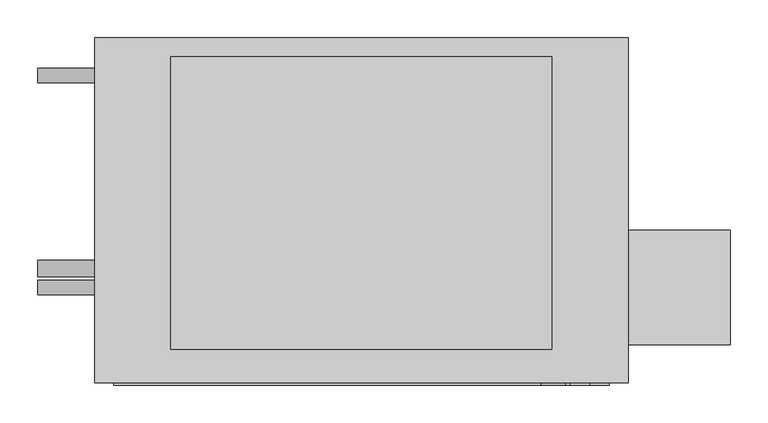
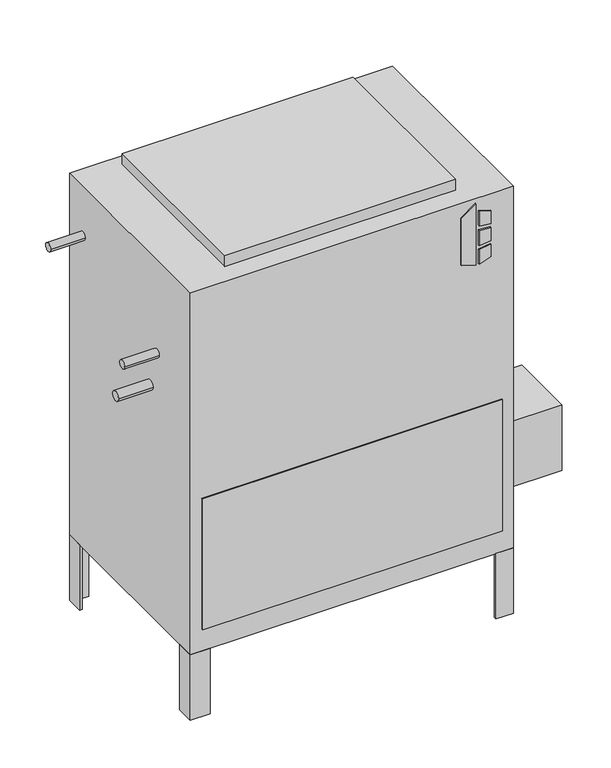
"""IFC4 building model written with IfcOpenShell, lengths in millimetres: proxy geometry, Concealed_High_Capacity_Vertical_Fan_Coil_Unit_-_VEY_-_IEC_-_2-Pipe_Cool-EHeat_LH_2022 : Size 08 - 277v/60Hz/1Ph - 6 Row 6.0kW."""

import ifcopenshell
import ifcopenshell.guid

model = None  # the IFC model being written
_history = None  # IfcOwnerHistory: only IFC2X3 demands one
_inside = {}  # id of a spatial element -> (the spatial element, [elements in it])
_under = {}  # id of a project, library or spatial element -> (it, [spatial elements below it])
_declared = {}  # id of a project -> (the project, [libraries it declares])
_typed = {}  # id of a type object -> (the type object, [elements of that type])
_made_of = {}  # id of a material, layer set ... -> (it, [elements and type objects made of it])


def new_model(schema):
    """Start an empty IFC model of exactly this schema.

    Asked for "IFC4X3", IfcOpenShell would pick the latest addendum, in which some entities
    have other attributes; the version numbers below select the first issue.
    IFC2X3 requires an IfcOwnerHistory on every rooted entity: one is made here for all.
    """
    global model, _history
    if schema == "IFC4X3":
        model = ifcopenshell.file(schema_version=(4, 3, 0, 0))
    else:
        model = ifcopenshell.file(schema=schema)
    _inside.clear()
    _under.clear()
    _declared.clear()
    _typed.clear()
    _made_of.clear()
    _history = None
    if model.schema == "IFC2X3":
        org = make("IfcOrganization", Name="unknown")
        user = make(
            "IfcPersonAndOrganization",
            ThePerson=make("IfcPerson", FamilyName="unknown"),
            TheOrganization=org,
        )
        app = make(
            "IfcApplication",
            ApplicationDeveloper=org,
            Version="unknown",
            ApplicationFullName="unknown",
            ApplicationIdentifier="unknown",
        )
        _history = make(
            "IfcOwnerHistory",
            OwningUser=user,
            OwningApplication=app,
            ChangeAction="ADDED",
            CreationDate=0,
        )
    return model


def make(cls, **values):
    """One entity of the class cls with the attributes given. An attribute that is None is left unset."""
    return model.create_entity(
        cls, **{name: value for name, value in values.items() if value is not None}
    )


def rooted(cls, **values):
    """An entity with a GlobalId (a new one), such as an element, a storey or a relation."""
    return make(cls, GlobalId=ifcopenshell.guid.new(), OwnerHistory=_history, **values)


def si_unit(unit_type, name, prefix=None):
    """IfcSIUnit, for example si_unit("LENGTHUNIT", "METRE", prefix="MILLI")."""
    return make("IfcSIUnit", UnitType=unit_type, Prefix=prefix, Name=name)


def assignment(units):
    """IfcUnitAssignment: the units of a project."""
    return None if units is None else make("IfcUnitAssignment", Units=units)


def point(xyz):
    """IfcCartesianPoint."""
    return None if xyz is None else make("IfcCartesianPoint", Coordinates=xyz)


def direction(xyz):
    """IfcDirection."""
    return None if xyz is None else make("IfcDirection", DirectionRatios=xyz)


def frame(location, z_axis=None, x_axis=None):
    """IfcAxis2Placement3D, a coordinate frame: its origin and axes. An axis left out is left unset."""
    return make(
        "IfcAxis2Placement3D",
        Location=point(location),
        Axis=direction(z_axis),
        RefDirection=direction(x_axis),
    )


def frame_2d(location, x_axis=None):
    """IfcAxis2Placement2D, a coordinate frame in the plane: its origin and x axis."""
    return make(
        "IfcAxis2Placement2D", Location=point(location), RefDirection=direction(x_axis)
    )


def origin():
    """The frame at (0, 0, 0) with its axes left unset."""
    return frame((0.0, 0.0, 0.0))


def origin_with_axes():
    """The frame at (0, 0, 0) with the z axis (0, 0, 1) and the x axis (1, 0, 0) written out."""
    return frame((0.0, 0.0, 0.0), z_axis=(0.0, 0.0, 1.0), x_axis=(1.0, 0.0, 0.0))


def place(relative_to, where):
    """IfcLocalPlacement: puts the frame where relative to a parent placement (None: the world)."""
    return make(
        "IfcLocalPlacement", PlacementRelTo=relative_to, RelativePlacement=where
    )


def context(
    kind, dimensions, precision=None, world=None, true_north=None, identifier=None
):
    """IfcGeometricRepresentationContext, for example the 3D "Model" context."""
    return make(
        "IfcGeometricRepresentationContext",
        ContextIdentifier=identifier,
        ContextType=kind,
        CoordinateSpaceDimension=dimensions,
        Precision=precision,
        WorldCoordinateSystem=world,
        TrueNorth=true_north,
    )


def project(units=None, contexts=None):
    """IfcProject with its units and contexts."""
    return rooted(
        "IfcProject",
        Name="project",
        RepresentationContexts=contexts,
        UnitsInContext=assignment(units),
    )


def spatial(cls, under=None, at=None, **own):
    """A site, building, storey or space (cls), placed at a placement, below another one or the project."""
    s = rooted(cls, ObjectPlacement=at, **own)
    if under is not None:
        _under.setdefault(under.id(), (under, []))[1].append(s)
    return s


def polyline(points):
    """IfcPolyline through the points."""
    return make("IfcPolyline", Points=[point(p) for p in points])


def circle_curve(where, radius):
    """IfcCircle in the frame where."""
    return make("IfcCircle", Position=where, Radius=radius)


def trimmed(basis, trim1, trim2, sense, master):
    """IfcTrimmedCurve: the piece of a basis curve between two trims."""
    return make(
        "IfcTrimmedCurve",
        BasisCurve=basis,
        Trim1=trim1,
        Trim2=trim2,
        SenseAgreement=sense,
        MasterRepresentation=master,
    )


def segment(curve, same_sense, transition):
    """IfcCompositeCurveSegment."""
    return make(
        "IfcCompositeCurveSegment",
        Transition=transition,
        SameSense=same_sense,
        ParentCurve=curve,
    )


def composite_curve(segments, self_intersect=None):
    """IfcCompositeCurve: segments joined end to end."""
    return make("IfcCompositeCurve", Segments=segments, SelfIntersect=self_intersect)


def outline(outer, holes=None, kind="AREA"):
    """IfcArbitraryClosedProfileDef: a profile drawn as a closed curve; with holes, ...WithVoids."""
    if holes is None:
        return make("IfcArbitraryClosedProfileDef", ProfileType=kind, OuterCurve=outer)
    return make(
        "IfcArbitraryProfileDefWithVoids",
        ProfileType=kind,
        OuterCurve=outer,
        InnerCurves=holes,
    )


def extrude(swept, where, along, depth):
    """IfcExtrudedAreaSolid: the profile swept, set in the frame where, extruded along a direction by depth."""
    return make(
        "IfcExtrudedAreaSolid",
        SweptArea=swept,
        Position=where,
        ExtrudedDirection=direction(along),
        Depth=depth,
    )


def shape(context_of_items, identifier, shape_type, items):
    """IfcShapeRepresentation: the items that make up one representation, for example the "Body"."""
    return make(
        "IfcShapeRepresentation",
        ContextOfItems=context_of_items,
        RepresentationIdentifier=identifier,
        RepresentationType=shape_type,
        Items=items,
    )


def source(mapping_origin, context_of_items, identifier, shape_type, items):
    """IfcRepresentationMap: a shape defined once, which mapped items show again and again."""
    return make(
        "IfcRepresentationMap",
        MappingOrigin=mapping_origin,
        MappedRepresentation=shape(context_of_items, identifier, shape_type, items),
    )


def transform(
    local_origin,
    x_axis=None,
    y_axis=None,
    z_axis=None,
    scale=None,
    scale2=None,
    scale3=None,
    uniform=True,
):
    """IfcCartesianTransformationOperator3D, or its non-uniform kind. x_axis, y_axis, z_axis: its Axis1, 2, 3."""
    if uniform:
        return make(
            "IfcCartesianTransformationOperator3D",
            Axis1=direction(x_axis),
            Axis2=direction(y_axis),
            LocalOrigin=point(local_origin),
            Scale=scale,
            Axis3=direction(z_axis),
        )
    return make(
        "IfcCartesianTransformationOperator3DnonUniform",
        Axis1=direction(x_axis),
        Axis2=direction(y_axis),
        LocalOrigin=point(local_origin),
        Scale=scale,
        Axis3=direction(z_axis),
        Scale2=scale2,
        Scale3=scale3,
    )


def mapped(mapping_source, mapping_target):
    """IfcMappedItem: shows the shape of a source again, moved by a transform."""
    return make(
        "IfcMappedItem", MappingSource=mapping_source, MappingTarget=mapping_target
    )


def made_of(thing, what):
    """Note that an element or type object is made of a material, layer set ...; save() writes the relation."""
    if what is not None:
        _made_of.setdefault(what.id(), (what, []))[1].append(thing)
    return thing


def element(
    cls,
    number,
    at=None,
    inside=None,
    cuts=None,
    type_object=None,
    material=None,
    context=None,
    identifier="Body",
    shape_type=None,
    held_by="IfcProductDefinitionShape",
    body=None,
    shapes=None,
    **own,
):
    """One element of the class cls, such as IfcWall. Its Tag is "e" and its number.

    at: its placement. inside: the storey or other place that contains it. cuts: it is an
    opening in that element (IfcRelVoidsElement). A single representation is given by context,
    identifier, shape_type and body (its items); several are given by shapes. held_by: the class
    of the entity that holds the representations. save() writes the other relations.
    """
    e = rooted(cls, Tag="e%d" % number, ObjectPlacement=at, **own)
    if body is not None:
        shapes = [shape(context, identifier, shape_type, body)]
    if shapes is not None:
        e.Representation = make(held_by, Representations=shapes)
    if inside is not None:
        _inside.setdefault(inside.id(), (inside, []))[1].append(e)
    if cuts is not None:
        rooted(
            "IfcRelVoidsElement", RelatingBuildingElement=cuts, RelatedOpeningElement=e
        )
    if type_object is not None:
        _typed.setdefault(type_object.id(), (type_object, []))[1].append(e)
    return made_of(e, material)


def aggregate(whole, parts):
    """IfcRelAggregates: a whole, such as a stair, and the parts it consists of."""
    return rooted("IfcRelAggregates", RelatingObject=whole, RelatedObjects=parts)


def save(model, path):
    """Write the relations noted so far, then the file.

    IfcRelAggregates (storeys below a building ...), IfcRelContainedInSpatialStructure (elements
    in a storey), IfcRelDefinesByType, IfcRelAssociatesMaterial and IfcRelDeclares: one each for
    every whole, place, type object, material and project.
    """
    for whole, parts in _under.values():
        aggregate(whole, parts)
    for where, things in _inside.values():
        rooted(
            "IfcRelContainedInSpatialStructure",
            RelatedElements=things,
            RelatingStructure=where,
        )
    for kind, things in _typed.values():
        rooted("IfcRelDefinesByType", RelatedObjects=things, RelatingType=kind)
    for what, things in _made_of.values():
        rooted("IfcRelAssociatesMaterial", RelatedObjects=things, RelatingMaterial=what)
    for by, libraries in _declared.values():
        rooted("IfcRelDeclares", RelatingContext=by, RelatedDefinitions=libraries)
    model.write(path)


def mechanical_equipment_5b6f974a(model_context):
    return source(origin(), model_context, "Body", "SweptSolid", [
        extrude(outline(polyline([(698.9230703, 392.1868862), (688.975, 424.3602728), (831.1459244, 424.3602728), (808.1239183, 392.1868862), (698.9230703, 392.1868862)])), frame((0.0, -471.4875, 0.0), z_axis=(0.0, 1.0, 0.0), x_axis=(0.0, 0.0, 1.0)), (0.0, 0.0, 1.0), 3.175),
        extrude(outline(polyline([(777.9223557, 431.1186058), (774.7199632, 457.2), (803.9488042, 457.2), (812.0132193, 431.1186058), (777.9223557, 431.1186058)])), frame((0.0, -471.4875, 0.0), z_axis=(0.0, 1.0, 0.0), x_axis=(0.0, 0.0, 1.0)), (0.0, 0.0, 1.0), 3.175),
        extrude(outline(polyline([(726.0588288, 457.2), (722.3933279, 431.1186058), (688.975, 431.1186058), (697.6092372, 457.2), (726.0588288, 457.2)])), frame((0.0, -471.4875, 0.0), z_axis=(0.0, 1.0, 0.0), x_axis=(0.0, 0.0, 1.0)), (0.0, 0.0, 1.0), 3.175),
        extrude(outline(polyline([(765.3739903, 457.2), (767.6558166, 431.1186058), (731.7182681, 431.1186058), (734.4595331, 457.2), (765.3739903, 457.2)])), frame((0.0, -471.4875, 0.0), z_axis=(0.0, 1.0, 0.0), x_axis=(0.0, 0.0, 1.0)), (0.0, 0.0, 1.0), 3.175),
        extrude(outline(polyline([(508.0, -417.5125), (508.0, -265.1125), (644.525, -265.1125), (644.525, -417.5125), (508.0, -417.5125)])), frame((0.0, 0.0, 101.6), z_axis=(0.0, 0.0, 1.0), x_axis=(1.0, 0.0, 0.0)), (0.0, 0.0, 1.0), 152.4),
        extrude(outline(polyline([(508.0, -46.0375), (501.65, -46.0375), (501.65, -14.2875), (469.9, -14.2875), (469.9, -7.9375), (508.0, -7.9375), (508.0, -46.0375)])), frame((0.0, 0.0, -152.4), z_axis=(0.0, 0.0, 1.0), x_axis=(1.0, 0.0, 0.0)), (0.0, 0.0, 1.0), 152.4),
        extrude(outline(polyline([(-165.1, -7.9375), (-165.1, -14.2875), (-196.85, -14.2875), (-196.85, -46.0375), (-203.2, -46.0375), (-203.2, -7.9375), (-165.1, -7.9375)])), frame((0.0, 0.0, -152.4), z_axis=(0.0, 0.0, 1.0), x_axis=(1.0, 0.0, 0.0)), (0.0, 0.0, 1.0), 152.4),
        extrude(outline(polyline([(469.9, -468.3125), (469.9, -461.9625), (501.65, -461.9625), (501.65, -430.2125), (508.0, -430.2125), (508.0, -468.3125), (469.9, -468.3125)])), frame((0.0, 0.0, -152.4), z_axis=(0.0, 0.0, 1.0), x_axis=(1.0, 0.0, 0.0)), (0.0, 0.0, 1.0), 152.4),
        extrude(outline(polyline([(-203.2, -428.1199163), (-196.85, -428.1199163), (-196.85, -461.9625), (-159.7318533, -461.9625), (-159.7318533, -468.3125), (-203.2, -468.3125), (-203.2, -428.1199163)])), frame((0.0, 0.0, -152.4), z_axis=(0.0, 0.0, 1.0), x_axis=(1.0, 0.0, 0.0)), (0.0, 0.0, 1.0), 152.4),
        extrude(outline(polyline([(406.4, -33.3375), (406.4, -423.8625), (-101.6, -423.8625), (-101.6, -33.3375), (406.4, -33.3375)])), frame((0.0, 0.0, 841.375), z_axis=(0.0, 0.0, 1.0), x_axis=(1.0, 0.0, 0.0)), (0.0, 0.0, 1.0), 25.4),
        extrude(outline(polyline([(482.6, -471.4875), (-177.8, -471.4875), (-177.8, -468.3125), (482.6, -468.3125), (482.6, -471.4875)])), frame((0.0, 0.0, 50.8), z_axis=(0.0, 0.0, 1.0), x_axis=(1.0, 0.0, 0.0)), (0.0, 0.0, 1.0), 304.8),
        extrude(outline(composite_curve([segment(trimmed(circle_curve(frame_2d((-58.7375, 727.075)), 9.525), [point((-68.2625, 727.075))], [point((-49.2125, 727.075))], False, "CARTESIAN"), True, "CONTINUOUS"), segment(trimmed(circle_curve(frame_2d((-58.7375, 727.075)), 9.525), [point((-49.2125, 727.075))], [point((-68.2625, 727.075))], False, "CARTESIAN"), True, "CONTINUOUS")], self_intersect=False)), frame((-279.4, 0.0, 0.0), z_axis=(1.0, 0.0, 0.0), x_axis=(0.0, 1.0, 0.0)), (0.0, 0.0, 1.0), 76.2),
        extrude(outline(composite_curve([segment(trimmed(circle_curve(frame_2d((-341.3125, 625.475)), 9.525), [point((-350.8375, 625.475))], [point((-331.7875, 625.475))], False, "CARTESIAN"), True, "CONTINUOUS"), segment(trimmed(circle_curve(frame_2d((-341.3125, 625.475)), 9.525), [point((-331.7875, 625.475))], [point((-350.8375, 625.475))], False, "CARTESIAN"), True, "CONTINUOUS")], self_intersect=False)), frame((-279.4, 0.0, 0.0), z_axis=(1.0, 0.0, 0.0), x_axis=(0.0, 1.0, 0.0)), (0.0, 0.0, 1.0), 76.2),
        extrude(outline(composite_curve([segment(trimmed(circle_curve(frame_2d((-315.9125, 536.575)), 11.1125), [point((-327.025, 536.575))], [point((-304.8, 536.575))], False, "CARTESIAN"), True, "CONTINUOUS"), segment(trimmed(circle_curve(frame_2d((-315.9125, 536.575)), 11.1125), [point((-304.8, 536.575))], [point((-327.025, 536.575))], False, "CARTESIAN"), True, "CONTINUOUS")], self_intersect=False)), frame((-279.4, 0.0, 0.0), z_axis=(1.0, 0.0, 0.0), x_axis=(0.0, 1.0, 0.0)), (0.0, 0.0, 1.0), 76.2),
        extrude(outline(polyline([(508.0, -7.9375), (508.0, -468.3125), (-203.2, -468.3125), (-203.2, -7.9375), (508.0, -7.9375)])), origin_with_axes(), (0.0, 0.0, 1.0), 841.375),
    ])


if __name__ == "__main__":
    model = new_model("IFC4")
    model_context = context("Model", 3, world=origin())
    ifc_project = project(units=[si_unit("LENGTHUNIT", "METRE", prefix="MILLI")], contexts=[model_context])
    site = spatial("IfcSite", under=ifc_project)
    building = spatial("IfcBuilding", under=site)
    placement = place(None, origin())
    mechanical_equipment_shape = mechanical_equipment_5b6f974a(model_context)
    element("IfcBuildingElementProxy", 1, Name="Concealed_High_Capacity_Vertical_Fan_Coil_Unit_-_VEY_-_IEC_-_2-Pipe_Cool-EHeat_LH_2022 : Size 08 - 277v/60Hz/1Ph - 6 Row 6.0kW", ObjectType="Concealed_High_Capacity_Vertical_Fan_Coil_Unit_-_VEY_-_IEC_-_2-Pipe_Cool-EHeat_LH_2022 : Size 08 - 277v/60Hz/1Ph - 6 Row 6.0kW", at=placement, inside=building, context=model_context, shape_type="MappedRepresentation", body=[
        mapped(mechanical_equipment_shape, transform((0.0, 0.0, 0.0), x_axis=(1.0, 0.0, 0.0), y_axis=(0.0, 1.0, 0.0), z_axis=(0.0, 0.0, 1.0))),
    ])
    save(model, "model.ifc")
